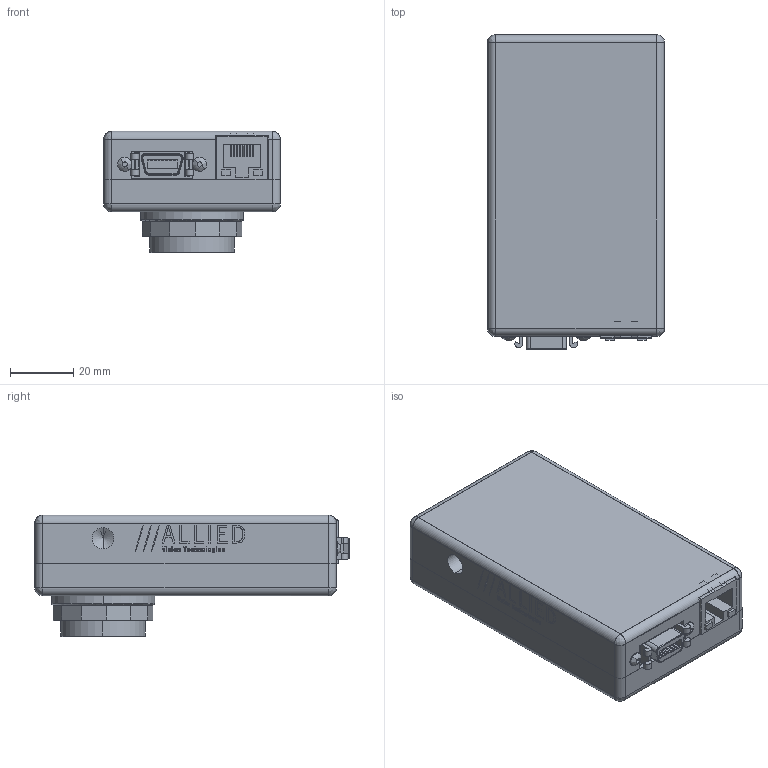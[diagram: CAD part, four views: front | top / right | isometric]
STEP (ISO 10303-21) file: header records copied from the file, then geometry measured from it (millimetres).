
FILE_DESCRIPTION (( 'STEP AP214' ), '1' );
FILE_NAME ('GS650C.STEP', '2013-07-31T20:15:56', ( '' ), ( '' ), 'SwSTEP 2.0', 'SolidWorks 2013', '' );
FILE_SCHEMA (( 'AUTOMOTIVE_DESIGN' ));
Length unit declared in the file: millimetre
Products named in the file (25): SONY ICX424 BODY; 740084B-GS SERIES LABEL; SONY ICX424 WINDOW; 110003AC-CV CMOUNT RING; GS650C; 200081B-GB1380-650-LS-RA; 260039-3M 10214-55G3PC; 260036-HALO HFJ11-1G16E-L12RL; 110031A-B EC-CCD LOCKING RING; 110094A-GB CCD GASKET; 110078A-GB MOUNT; 140008-washer spring lock #4; 140027-SCREW BUTTON M3x6 SS; 100097A-IR FILTER ASSEMBLY 0.75 INCH; 110054AB-IR FILTER SUPPORT; 440002-IR CUT FILTER 22MM DIA; 140056-SCREW SOCKET CAP HEX M2.5X10 BLACK; 740090-GS650C LABEL PRINT; 110089A-GS FRONT; 110090B-GS BACK RA_Default Logo; 140059-EMI GASKET FOR GS; 02-2201B-GB650C; 140055-WASHER SPRING LOCK M2.5 BLACK; 220074-SONY ICX424AQ; 140057-SCREW BUTTON SKT CAP M2.5X10 SS
Assembly tree (33 placements, depth 4):
  GS650C
    740084B-GS SERIES LABEL
    140057-SCREW BUTTON SKT CAP M2.5X10 SS  x2
    140055-WASHER SPRING LOCK M2.5 BLACK  x4
    140059-EMI GASKET FOR GS
    110089A-GS FRONT
    140056-SCREW SOCKET CAP HEX M2.5X10 BLACK  x4
    02-2201B-GB650C
      100097A-IR FILTER ASSEMBLY 0.75 INCH
        440002-IR CUT FILTER 22MM DIA
        110054AB-IR FILTER SUPPORT
      140027-SCREW BUTTON M3x6 SS  x2
      140008-washer spring lock #4  x2
      110078A-GB MOUNT
      110094A-GB CCD GASKET
      110031A-B EC-CCD LOCKING RING
      200081B-GB1380-650-LS-RA
        260036-HALO HFJ11-1G16E-L12RL
        260039-3M 10214-55G3PC
      110003AC-CV CMOUNT RING
      220074-SONY ICX424AQ
        SONY ICX424 WINDOW
        SONY ICX424 BODY
    110090B-GS BACK RA_Default Logo
    740090-GS650C LABEL PRINT
Bounding box: 55.88 x 99.31 x 38.43 mm (x, y, z)
Volume: 57318.2 mm3; surface area: 74070.5 mm2
Topology: 88 solids, 88 shells, 3604 faces, 9329 edges, 6070 vertices
Faces by surface type: plane 2061, bspline 853, cylinder 474, cone 216
Entity records: 176037 total; most frequent: CARTESIAN_POINT 55792, ORIENTED_EDGE 18026, DIRECTION 13734, EDGE_CURVE 9013, LINE 6214, VECTOR 6214, VERTEX_POINT 5901, EDGE_LOOP 3808
